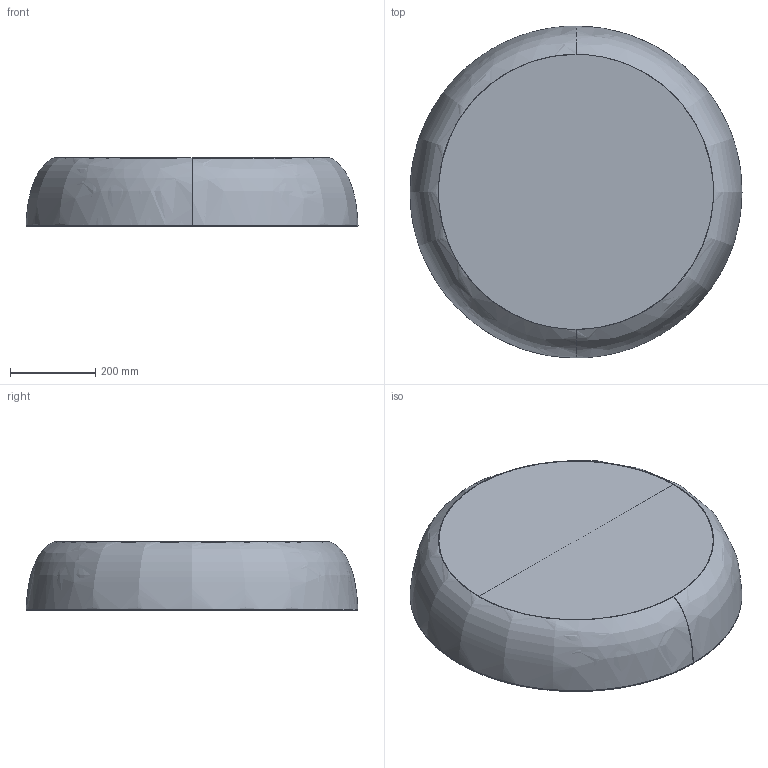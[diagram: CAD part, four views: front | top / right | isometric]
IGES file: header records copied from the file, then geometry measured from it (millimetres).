
Start section: SolidWorks IGES file using analytic representation for surfaces
Global section: file name: C:\Users\anna.bielnik\Desktop\modele 3D tymczasowe\SATELITE\SATELLITE-L-8022-8021-8023-8024\PM\SATELLITE 780 - z³o¿enie PM.IGS; native system: SolidWorks 2023; preprocessor: SolidWorks 2023; author: anna.bielnik; date: 230628.132711; units: millimetre
Bounding box: 780.17 x 780.17 x 160.6 mm (x, y, z)
Surface area: 2621866.7 mm2 (no closed solid volume)
Topology: 0 solids, 0 shells, 109 faces, 1476 edges, 1454 vertices
Faces by surface type: bspline 83, revolution 26
